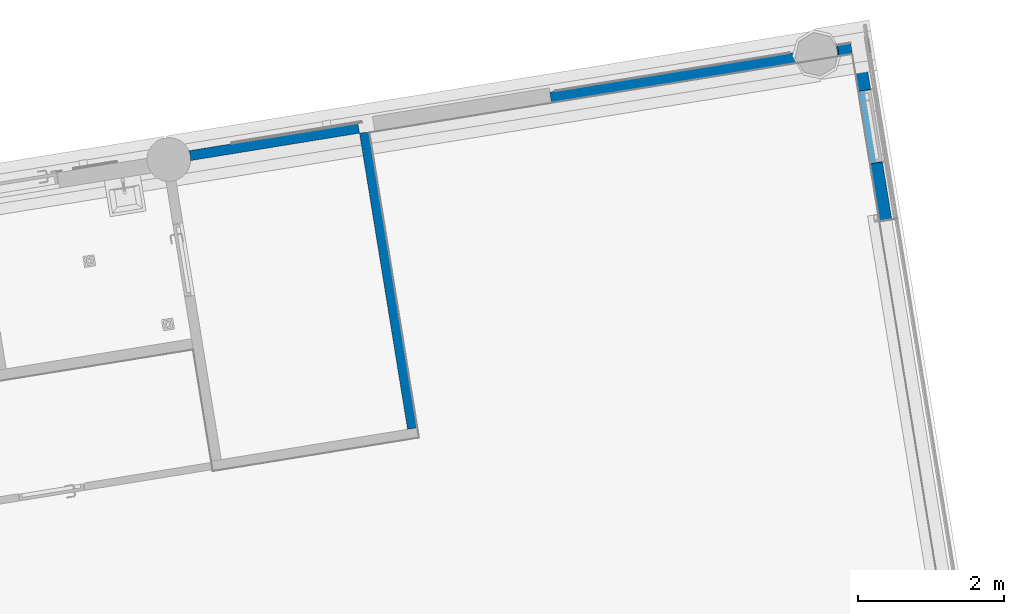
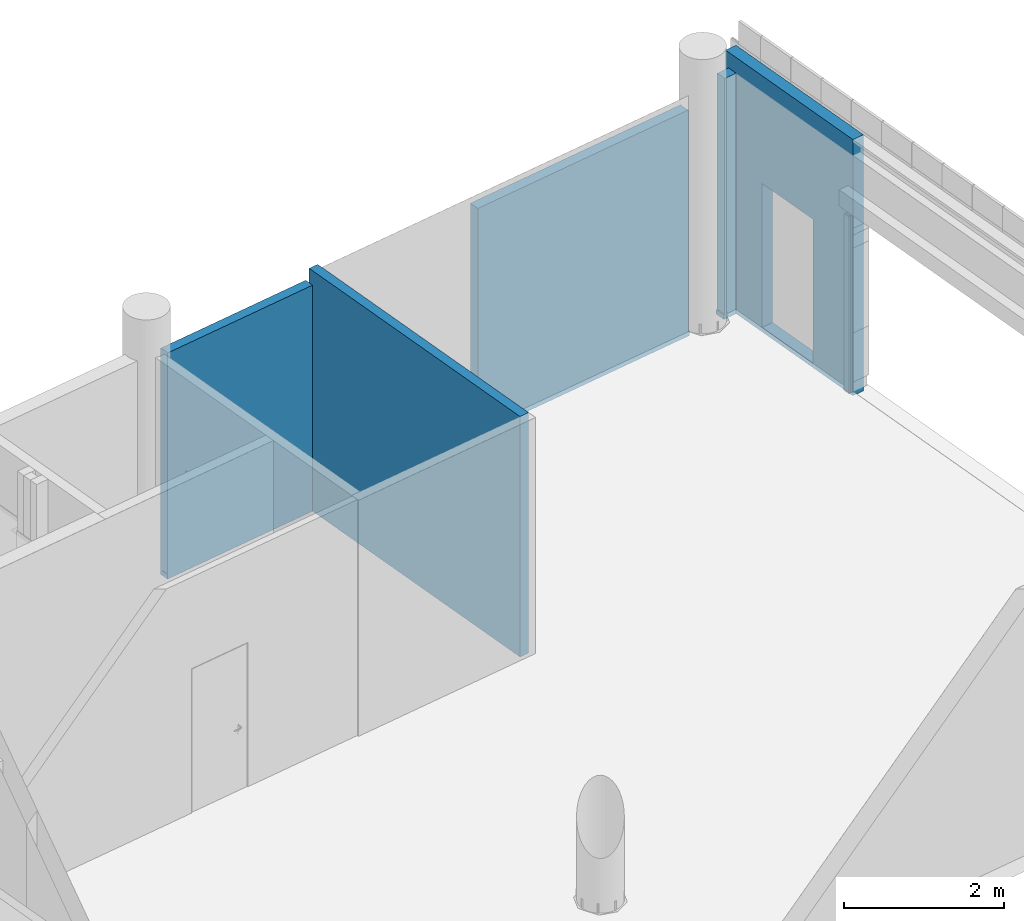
# One storey, part 27 of 38: 5 walls.
"""IFC2X3 building model written with IfcOpenShell, lengths in millimetres."""

from ifc_helpers import new_model, entity, si_unit, converted_unit, derived_unit, direction, frame, origin, origin_with_axes, place, context, subcontext, project, spatial, faceted_brep, material, layer, layer_set, type_object, element, save


model = new_model("IFC2X3")

# Units and contexts
model_context = context("Model", 3, precision=0.01, world=origin(), true_north=direction((6.12323399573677e-17, 1.0)))
plan_context = context("Plan", 3, precision=1e-05, world=origin_with_axes())
body_context = subcontext(model_context, "Body", "Model", "MODEL_VIEW")
ifc_project = project(units=[converted_unit("PLANEANGLEUNIT", "DEGREE", entity("IfcPositiveLengthMeasure", 0.0174532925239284), si_unit("PLANEANGLEUNIT", "RADIAN"), dimensions=[0, 0, 0, 0, 0, 0, 0]), si_unit("AREAUNIT", "SQUARE_METRE"), si_unit("LENGTHUNIT", "METRE", prefix="MILLI"), si_unit("MASSUNIT", "GRAM", prefix="KILO"), si_unit("POWERUNIT", "WATT"), si_unit("PRESSUREUNIT", "PASCAL", prefix="KILO"), si_unit("FORCEUNIT", "NEWTON", prefix="KILO"), si_unit("ELECTRICVOLTAGEUNIT", "VOLT"), si_unit("ELECTRICCURRENTUNIT", "AMPERE"), si_unit("THERMODYNAMICTEMPERATUREUNIT", "DEGREE_CELSIUS"), si_unit("TIMEUNIT", "SECOND"), si_unit("VOLUMEUNIT", "CUBIC_METRE"), derived_unit("LINEARVELOCITYUNIT", [(si_unit("LENGTHUNIT", "METRE"), 1), (si_unit("TIMEUNIT", "SECOND"), -1)]), derived_unit("VOLUMETRICFLOWRATEUNIT", [(si_unit("VOLUMEUNIT", "CUBIC_METRE"), 1), (si_unit("TIMEUNIT", "SECOND"), -1)]), derived_unit("THERMALTRANSMITTANCEUNIT", [(si_unit("POWERUNIT", "WATT"), 1), (si_unit("THERMODYNAMICTEMPERATUREUNIT", "KELVIN"), -1), (si_unit("AREAUNIT", "SQUARE_METRE"), -1)]), derived_unit("SOUNDPRESSUREUNIT", [(si_unit("PRESSUREUNIT", "PASCAL"), 1)])], contexts=[model_context, plan_context])

# Site, building, storey
site_placement = place(None, frame((-0.00071070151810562, 0.00438415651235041, 0.0), z_axis=(0.0, 0.0, 1.0), x_axis=(-0.160236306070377, 0.987078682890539, 0.0)))
site = spatial("IfcSite", under=ifc_project, at=site_placement, Name="Default", CompositionType="ELEMENT")
building_placement = place(site_placement, origin_with_axes())
building = spatial("IfcBuilding", under=site, at=building_placement, Name="TOO", CompositionType="ELEMENT")
storey_placement = place(building_placement, frame((0.0, 0.0, 50999.9999999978), z_axis=(0.0, 0.0, 1.0), x_axis=(1.0, 0.0, 0.0)))
storey = spatial("IfcBuildingStorey", under=building, at=storey_placement, Name="Nivå D-H01", CompositionType="ELEMENT", Elevation=50999.9999999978)

# Walls
ifc_material_1 = material(Name="A240 - Gipsplate")
ifc_layer_1 = layer(ifc_material_1, 12.5)
ifc_layer_2 = layer(ifc_material_1, 12.5)
ifc_layer_3 = layer(ifc_material_1, 12.5)
ifc_material_2 = material(Name="A240 - Stenderverk - Usiolert")
ifc_layer_4 = layer(ifc_material_2, 100.0)
ifc_layer_set_1 = layer_set([ifc_layer_1, ifc_layer_2, ifc_layer_3, ifc_layer_4], Name="Basic Wall:A242 - GGG100/0")
wall_type_1 = type_object("IfcWallType", Name="Basic Wall:A242 - GGG100/0", PredefinedType="STANDARD", material=ifc_layer_set_1)
wall_1_placement = place(storey_placement, frame((779883.869644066, -597139.980498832, -70.0), z_axis=(0.0, 0.0, 1.0), x_axis=(0.0, 1.0, 0.0)))
element("IfcWall", 1, at=wall_1_placement, inside=storey, type_object=wall_type_1, Name="Basic Wall:A242 - GGG100/0", ObjectType="Basic Wall:A242 - GGG100/0", context=body_context, shape_type="Brep", body=[
    faceted_brep([(0.0, -68.7500000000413, 3460.0000000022), (0.0, -68.7500000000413, 0.0), (2347.50000000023, -68.750000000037, 0.0), (2347.50000000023, -68.750000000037, 70.0), (2347.02624903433, -68.750000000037, 70.0), (2347.02624903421, -68.750000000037, 674.78095369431), (2347.02624903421, -68.750000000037, 1219.89047684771), (2347.02624903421, -68.750000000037, 1765.00000000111), (2347.02624903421, -68.750000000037, 2310.1095231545), (2347.02624903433, -68.750000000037, 2855.2190463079), (2347.02624903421, -68.750000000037, 3460.0000000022), (2344.08263514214, 68.7500000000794, 70.0), (2347.50000000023, 68.7500000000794, 70.0), (2347.50000000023, 68.7500000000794, 0.0), (0.0, 68.7500000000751, 0.0), (0.0, 68.7500000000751, 3460.0000000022), (2344.08263514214, 68.7500000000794, 3460.0000000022), (2344.08263514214, 68.7500000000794, 2855.21904612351), (2344.08263514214, 68.7500000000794, 2369.7809538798), (2344.08263514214, 68.7500000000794, 1824.6714308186), (2344.08263514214, 68.7500000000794, 1279.56190775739), (2344.08263514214, 68.7500000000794, 674.780953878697), (2338.95406206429, -23.2512362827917, 3460.0000000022), (2337.96503570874, 22.9474599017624, 3460.0000000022), (2338.95127510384, -23.2230192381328, 70.0), (2337.96627846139, 22.9697386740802, 70.0), (2337.54592070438, 1.00116069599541, 1598.52096352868), (2337.56872239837, -0.170959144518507, 977.171430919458), (2337.56872239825, -0.170959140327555, 2612.49999988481), (2337.56818124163, -0.145631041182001, 502.362565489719), (2337.65351933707, 15.8462510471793, 2106.79536809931)], [[[0, 1, 2, 3, 4, 5, 6, 7, 8, 9, 10]], [[11, 12, 13, 14, 15, 16, 17, 18, 19, 20, 21]], [[2, 1, 14, 13]], [[3, 2, 13, 12]], [[0, 10, 22, 23, 16, 15]], [[24, 4, 3, 12, 11, 25]], [[17, 16, 23]], [[20, 26, 27]], [[17, 23, 28]], [[29, 24, 25]], [[10, 9, 22]], [[21, 20, 27]], [[28, 18, 17]], [[26, 19, 30]], [[5, 4, 24]], [[9, 28, 22]], [[21, 25, 11]], [[29, 27, 5]], [[29, 25, 21]], [[28, 23, 22]], [[30, 28, 8]], [[6, 5, 27]], [[28, 9, 8]], [[27, 26, 6]], [[24, 29, 5]], [[27, 29, 21]], [[30, 8, 7]], [[28, 30, 18]], [[7, 6, 26]], [[19, 26, 20]], [[18, 30, 19]], [[7, 26, 30]], [[15, 14, 1, 0]]]),
])
wall_2_placement = place(storey_placement, frame((775702.619644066, -597208.730498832, -70.0), z_axis=(0.0, 0.0, 1.0), x_axis=(1.0, 0.0, 0.0)))
element("IfcWall", 2, at=wall_2_placement, inside=storey, type_object=wall_type_1, Name="Basic Wall:A242 - GGG100/0", ObjectType="Basic Wall:A242 - GGG100/0", context=body_context, shape_type="Brep", body=[
    faceted_brep([(0.0, -68.7499999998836, 0.0), (4100.00022545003, -68.7499999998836, 0.0), (4100.00022545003, -68.7499999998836, 3460.0000000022), (4181.25000000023, -68.7499999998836, 3460.0000000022), (4181.25000000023, -68.7499999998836, 3680.0000000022), (0.0, -68.7499999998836, 3680.0000000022), (0.0, 68.7500000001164, 0.0), (0.0, 68.7500000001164, 3680.0000000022), (4181.25000000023, 68.7500000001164, 3680.0000000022), (4181.25000000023, 68.7500000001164, 3460.0000000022), (4112.50000000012, 68.7500000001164, 3460.0000000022), (4112.50000000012, 68.7500000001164, 0.0), (4112.50000000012, 0.0, 0.0), (4112.50000000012, 0.0, 3460.0000000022)], [[[0, 1, 2, 3, 4, 5]], [[6, 7, 8, 9, 10, 11]], [[1, 0, 6, 11, 12]], [[5, 4, 8, 7]], [[0, 5, 7, 6]], [[4, 3, 9, 8]], [[9, 3, 2, 13, 10]], [[2, 1, 12, 13]], [[12, 11, 10, 13]]]),
])
ifc_layer_5 = layer(ifc_material_1, 12.5)
ifc_layer_6 = layer(ifc_material_1, 12.5)
ifc_material_3 = material(Name="A200 - Isolasjon - Rock Wool")
ifc_layer_7 = layer(ifc_material_3, 100.0)
ifc_layer_8 = layer(ifc_material_1, 12.5)
ifc_layer_9 = layer(ifc_material_1, 12.5)
ifc_layer_set_2 = layer_set([ifc_layer_5, ifc_layer_6, ifc_layer_7, ifc_layer_8, ifc_layer_9], Name="Basic Wall:A242 - GG100/100GG")
wall_type_2 = type_object("IfcWallType", Name="Basic Wall:A242 - GG100/100GG", PredefinedType="STANDARD", material=ifc_layer_set_2)
wall_3_placement = place(storey_placement, frame((779877.619644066, -603782.480498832, -70.0), z_axis=(0.0, 0.0, 1.0), x_axis=(0.0, -1.0, 0.0)))
element("IfcWall", 3, at=wall_3_placement, inside=storey, type_object=wall_type_2, Name="Basic Wall:A242 - GG100/100GG", ObjectType="Basic Wall:A242 - GG100/100GG", context=body_context, shape_type="Brep", body=[
    faceted_brep([(10.4737509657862, -75.0, 70.0), (0.0, -75.0, 70.0), (0.0, -75.0, 0.0), (200.0, -75.0, 0.0), (200.0, -75.0, 3680.0000000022), (10.4737509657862, -75.0, 3680.0000000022), (10.4737509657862, -75.0, 3075.21904627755), (10.4737509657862, -75.0, 2470.4380925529), (10.4737509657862, -75.0, 1875.0000000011), (10.4737509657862, -75.0, 1279.56190744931), (10.4737509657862, -75.0, 674.780953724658), (200.0, 75.0, 3680.0000000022), (200.0, 75.0, 0.0), (0.0, 75.0, 0.0), (0.0, 75.0, 70.0), (10.4737509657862, 75.0, 70.0), (10.4737509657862, 75.0, 674.780953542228), (10.4737509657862, 75.0, 1279.56190708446), (10.4737509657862, 75.0, 1884.3428606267), (10.4737509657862, 75.0, 2489.12381416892), (10.4737509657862, 75.0, 3084.56190708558), (10.4737509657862, 75.0, 3680.0000000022), (18.9365070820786, 25.2381602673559, 3680.0000000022), (18.9365070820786, -25.238160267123, 3680.0000000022), (18.9380759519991, -25.2195706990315, 70.0), (18.9342673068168, 25.264675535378, 70.0), (19.9721369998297, -4.08864572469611, 2172.7190462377), (19.8739627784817, 8.69519681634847, 1517.30829378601), (20.0, 5.8906152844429e-08, 2900.22859106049), (19.9999991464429, 0.0226327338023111, 856.137584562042)], [[[0, 1, 2, 3, 4, 5, 6, 7, 8, 9, 10]], [[11, 12, 13, 14, 15, 16, 17, 18, 19, 20, 21]], [[3, 2, 13, 12]], [[5, 4, 11, 21, 22, 23]], [[2, 1, 14, 13]], [[24, 25, 15, 14, 1, 0]], [[26, 18, 27]], [[28, 26, 7]], [[10, 29, 24]], [[10, 9, 29]], [[9, 27, 29]], [[23, 22, 28]], [[27, 17, 29]], [[25, 24, 29]], [[21, 20, 22]], [[28, 6, 23]], [[28, 22, 20]], [[24, 0, 10]], [[29, 16, 25]], [[8, 7, 26]], [[8, 27, 9]], [[26, 28, 19]], [[26, 19, 18]], [[8, 26, 27]], [[18, 17, 27]], [[15, 25, 16]], [[29, 17, 16]], [[20, 19, 28]], [[5, 23, 6]], [[28, 7, 6]], [[3, 12, 11, 4]]]),
])
wall_4_placement = place(storey_placement, frame((779877.619644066, -599804.980498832, -70.0), z_axis=(0.0, 0.0, 1.0), x_axis=(0.0, -1.0, 0.0)))
element("IfcWall", 4, at=wall_4_placement, inside=storey, type_object=wall_type_2, Name="Basic Wall:A242 - GG100/100GG", ObjectType="Basic Wall:A242 - GG100/100GG", context=body_context, shape_type="Brep", body=[
    faceted_brep([(0.0, -75.0, 3460.0000000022), (0.0, -75.0, 0.0), (3422.50123999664, -75.0, 0.0), (3422.50123999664, -75.0, 70.0), (3407.02624903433, -75.0, 70.0), (3407.02624903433, -75.0, 493.750000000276), (3407.02624903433, -75.0, 917.500000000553), (3407.02624903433, -75.0, 1341.25000000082), (3407.02624903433, -75.0, 1765.00000000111), (3407.02624903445, -75.0, 2188.75000000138), (3407.02624903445, -75.0, 2612.50000000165), (3407.02624903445, -75.0, 2885.05476077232), (3407.02624903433, -75.0, 3157.609521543), (3407.02624903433, -75.0, 3460.0000000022), (3407.02624903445, 75.0, 70.0), (3422.50123999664, 75.0, 70.0), (3422.50123999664, 75.0, 0.0), (62.5000000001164, 75.0, 0.0), (0.0, 75.0, 0.0), (0.0, 75.0, 3460.0000000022), (3407.02624903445, 75.0, 3460.0000000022), (3407.02624903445, 75.0, 3157.60952082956), (3407.02624903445, 75.0, 2914.8904791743), (3407.02624903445, 75.0, 2642.33571876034), (3407.02624903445, 75.0, 2369.78095834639), (3407.02624903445, 75.0, 2097.22619793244), (3407.02624903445, 75.0, 1824.67143751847), (3407.02624903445, 75.0, 1552.11667710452), (3407.02624903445, 75.0, 1279.56191669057), (3407.02624903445, 75.0, 977.171437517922), (3407.02624903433, 75.0, 674.780958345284), (3407.02624903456, 75.0, 372.390479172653), (3399.89109111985, -37.8012877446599, 3460.0000000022), (3397.5, 0.0, 3460.0000000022), (3399.89109111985, 37.8012877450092, 3460.0000000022), (3399.89953519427, 37.8677085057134, 70.0), (3397.5, 0.0, 70.0), (3399.89953519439, -37.867708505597, 70.0), (3397.5, 0.0, 493.750000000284), (3400.26528804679, 40.6389715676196, 523.585718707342), (3397.5, 0.0, 2037.5547606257), (3400.80115057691, 44.3823472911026, 1933.40660472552), (3399.68708702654, 36.1589389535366, 2173.83214193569), (3399.89109107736, 37.8012874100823, 3036.2499999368), (3399.24672035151, 32.3261686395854, 1129.37499879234), (3399.95633151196, 38.3114257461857, 1407.29839211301), (3397.5, 0.0, 1341.25000000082), (3400.08797358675, 39.3203070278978, 820.359976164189), (3397.5, 0.0, 917.500000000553), (3397.5, 0.0, 372.390478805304), (3399.68708705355, 36.1589391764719, 2718.94166389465), (3399.34664154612, 33.2351446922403, 2446.38690296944), (3397.5, 0.0, 2582.66428187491), (3397.5, 0.0, 2855.21904249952), (3397.5, 0.0, 2310.10952125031), (3397.5, 0.0, 2250.43808478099), (3400.10415203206, 39.4424848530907, 1688.39405727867), (3397.5, 0.0, 3157.60952125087), (3397.5, 0.0, 1765.00000000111), (3397.5, 0.0, 1977.88332418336), (3397.5, 0.0, 2552.82856358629), (3397.50000000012, 0.0, 887.664281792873), (3397.5, 0.0, 615.109521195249), (3397.5, 0.0, 1160.21904239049), (3397.5, 0.0, 1705.32856358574), (3397.49999999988, 0.0, 1432.77380298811), (3400.13778559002, -39.6952571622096, 1612.32203300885), (3399.77368323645, -36.8651638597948, 1023.94166186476), (3399.5172169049, -34.7312680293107, 1316.29991379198), (3399.89109115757, -37.8012880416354, 3006.41428166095), (3400.84954946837, -44.7046999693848, 758.063399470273), (3400.63485471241, -43.2560459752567, 2400.62500094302), (3399.68095813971, -36.108424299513, 2113.46624697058), (3399.65540289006, -35.8970189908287, 493.750000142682), (3399.70237602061, -36.2846407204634, 2709.69350955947), (3399.18267955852, -31.7297388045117, 1860.62388713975)], [[[0, 1, 2, 3, 4, 5, 6, 7, 8, 9, 10, 11, 12, 13]], [[14, 15, 16, 17, 18, 19, 20, 21, 22, 23, 24, 25, 26, 27, 28, 29, 30, 31]], [[2, 1, 18, 17, 16]], [[3, 2, 16, 15]], [[0, 13, 32, 33, 34, 20, 19]], [[1, 0, 19, 18]], [[3, 15, 14, 35, 36, 37, 4]], [[38, 35, 39]], [[40, 41, 42]], [[35, 14, 31]], [[21, 20, 34, 43, 22]], [[44, 45, 46]], [[47, 44, 48]], [[35, 38, 49, 36]], [[24, 42, 25]], [[23, 22, 50]], [[51, 50, 52]], [[39, 30, 47]], [[52, 50, 53]], [[42, 54, 55, 40]], [[27, 26, 56]], [[34, 33, 57, 53, 43]], [[39, 47, 38]], [[56, 58, 45]], [[39, 31, 30]], [[45, 28, 27]], [[41, 40, 59, 58]], [[56, 26, 41]], [[50, 22, 43]], [[51, 42, 24]], [[51, 52, 60, 54]], [[41, 26, 25]], [[53, 50, 43]], [[24, 23, 51]], [[31, 39, 35]], [[47, 48, 61, 62, 38]], [[44, 46, 63, 48]], [[47, 29, 44]], [[45, 58, 64, 65, 46]], [[23, 50, 51]], [[28, 44, 29]], [[47, 30, 29]], [[42, 51, 54]], [[56, 45, 27]], [[45, 44, 28]], [[58, 56, 41]], [[42, 41, 25]], [[65, 64, 66]], [[67, 68, 7]], [[12, 11, 69, 32, 13]], [[68, 66, 7]], [[70, 6, 5]], [[68, 67, 63]], [[57, 33, 32, 69, 53]], [[10, 9, 71]], [[9, 8, 72]], [[4, 37, 5]], [[37, 36, 49]], [[5, 37, 73]], [[49, 73, 37]], [[73, 49, 38, 62]], [[67, 61, 48, 63]], [[6, 70, 67]], [[62, 70, 73]], [[70, 62, 61]], [[6, 67, 7]], [[53, 69, 74]], [[69, 11, 74]], [[8, 7, 66]], [[68, 65, 66]], [[71, 55, 54, 60]], [[72, 71, 9]], [[60, 74, 71]], [[10, 71, 74]], [[55, 71, 72]], [[74, 60, 52, 53]], [[66, 64, 75]], [[68, 63, 46, 65]], [[59, 72, 75]], [[72, 59, 40, 55]], [[67, 70, 61]], [[73, 70, 5]], [[10, 74, 11]], [[72, 8, 75]], [[75, 64, 58, 59]], [[66, 75, 8]]]),
])
ifc_layer_10 = layer(ifc_material_1, 12.5)
ifc_layer_11 = layer(ifc_material_1, 12.5)
ifc_layer_12 = layer(ifc_material_3, 120.0)
ifc_layer_13 = layer(ifc_material_1, 12.5)
ifc_layer_14 = layer(ifc_material_1, 12.5)
ifc_layer_set_3 = layer_set([ifc_layer_10, ifc_layer_11, ifc_layer_12, ifc_layer_13, ifc_layer_14], Name="Basic Wall:A242 - GG120/100GG")
wall_type_3 = type_object("IfcWallType", Name="Basic Wall:A242 - GG120/100GG", PredefinedType="STANDARD", material=ifc_layer_set_3)
wall_5_placement = place(storey_placement, frame((777487.619644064, -604067.480498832, -70.0), z_axis=(0.0, 0.0, 1.0), x_axis=(1.0, 0.0, 0.0)))
element("IfcWall", 5, at=wall_5_placement, inside=storey, type_object=wall_type_3, Name="Basic Wall:A242 - GG120/100GG", ObjectType="Basic Wall:A242 - GG120/100GG", context=body_context, shape_type="Brep", body=[
    faceted_brep([(2525.00000000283, 84.999999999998, 0.0), (2525.00000000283, 84.999999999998, 3920.00000000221), (0.0, 84.999999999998, 3920.00000000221), (0.0, 84.999999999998, 0.0), (790.000000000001, 85.0, 2269.99999999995), (1800.0, 85.0, 2269.99999999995), (1800.0, 85.0, 70.0), (790.000000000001, 85.0, 70.0), (0.0, -84.999999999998, 3920.00000000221), (0.0, -84.999999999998, 0.0), (2525.00000000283, -84.999999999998, 3920.00000000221), (2525.00000000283, -84.999999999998, 0.0), (1800.0, -85.0, 2269.99999999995), (790.000000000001, -85.0, 2269.99999999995), (790.000000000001, -85.0, 70.0), (1800.0, -85.0, 70.0)], [[[0, 1, 2, 3], [4, 5, 6, 7]], [[3, 2, 8, 9]], [[10, 11, 9, 8], [12, 13, 14, 15]], [[11, 0, 3, 9]], [[1, 10, 8, 2]], [[6, 15, 14, 7]], [[5, 12, 15, 6]], [[4, 13, 12, 5]], [[7, 14, 13, 4]], [[11, 10, 1, 0]]], orient=[[False, False], [False], [False, False], [False], [False], [False], [False], [False], [False], [False]]),
])

save(model, "model.ifc")
